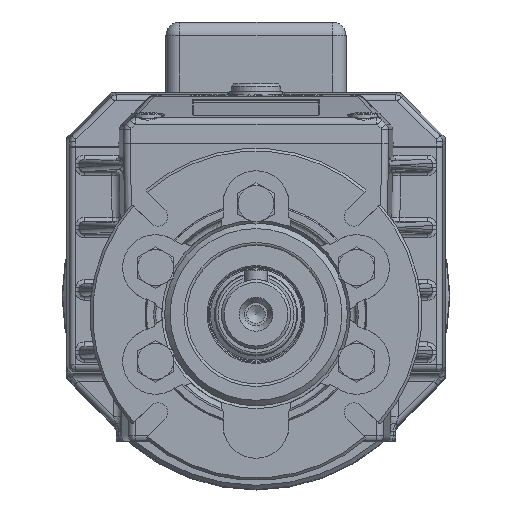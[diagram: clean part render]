
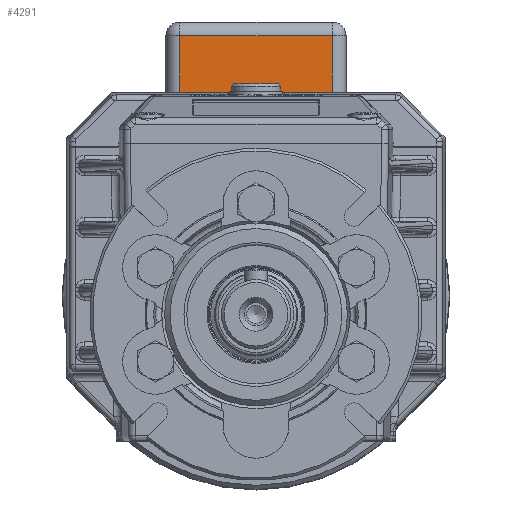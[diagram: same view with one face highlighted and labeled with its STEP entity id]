
A CAD part, top view. The second image highlights one B-rep face of the part: STEP entity #4291.
In plain terms, the highlighted planar face has unit normal (0, 0, 1).
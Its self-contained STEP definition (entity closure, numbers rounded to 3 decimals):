
#4291 = ADVANCED_FACE( '', ( #8941 ), #8942, .T. );
#8941 = FACE_OUTER_BOUND( '', #20021, .T. );
#8942 = PLANE( '', #20022 );
#20021 = EDGE_LOOP( '', ( #32579, #32580, #32581, #32582 ) );
#20022 = AXIS2_PLACEMENT_3D( '', #32583, #32584, #32585 );
#32579 = ORIENTED_EDGE( '', *, *, #38361, .T. );
#32580 = ORIENTED_EDGE( '', *, *, #35378, .T. );
#32581 = ORIENTED_EDGE( '', *, *, #33919, .T. );
#32582 = ORIENTED_EDGE( '', *, *, #35606, .T. );
#32583 = CARTESIAN_POINT( '', ( -32.5, 67.97, -203.5 ) );
#32584 = DIRECTION( '', ( 0., 0., 1. ) );
#32585 = DIRECTION( '', ( -1., 0., 0. ) );
#33919 = EDGE_CURVE( '', #39177, #39175, #39178, .T. );
#35378 = EDGE_CURVE( '', #41651, #39177, #41652, .T. );
#35606 = EDGE_CURVE( '', #39175, #39614, #42027, .T. );
#38361 = EDGE_CURVE( '', #39614, #41651, #45807, .T. );
#39175 = VERTEX_POINT( '', #47213 );
#39177 = VERTEX_POINT( '', #47215 );
#39178 = LINE( '', #47216, #47217 );
#39614 = VERTEX_POINT( '', #48078 );
#41651 = VERTEX_POINT( '', #52111 );
#41652 = LINE( '', #52112, #52113 );
#42027 = LINE( '', #52879, #52880 );
#45807 = LINE( '', #62948, #62949 );
#47213 = CARTESIAN_POINT( '', ( 27.5, 67.97, -203.5 ) );
#47215 = CARTESIAN_POINT( '', ( -27.5, 67.97, -203.5 ) );
#47216 = CARTESIAN_POINT( '', ( -32.5, 67.97, -203.5 ) );
#47217 = VECTOR( '', #64050, 1000. );
#48078 = CARTESIAN_POINT( '', ( 27.5, 100.97, -203.5 ) );
#52111 = CARTESIAN_POINT( '', ( -27.5, 100.97, -203.5 ) );
#52112 = CARTESIAN_POINT( '', ( -27.5, 67.97, -203.5 ) );
#52113 = VECTOR( '', #65697, 1000. );
#52879 = CARTESIAN_POINT( '', ( 27.5, 67.97, -203.5 ) );
#52880 = VECTOR( '', #65938, 1000. );
#62948 = CARTESIAN_POINT( '', ( -32.5, 100.97, -203.5 ) );
#62949 = VECTOR( '', #68572, 1000. );
#64050 = DIRECTION( '', ( 1., 0., 0. ) );
#65697 = DIRECTION( '', ( 0., -1., 0. ) );
#65938 = DIRECTION( '', ( 0., 1., 0. ) );
#68572 = DIRECTION( '', ( -1., 0., 0. ) );
